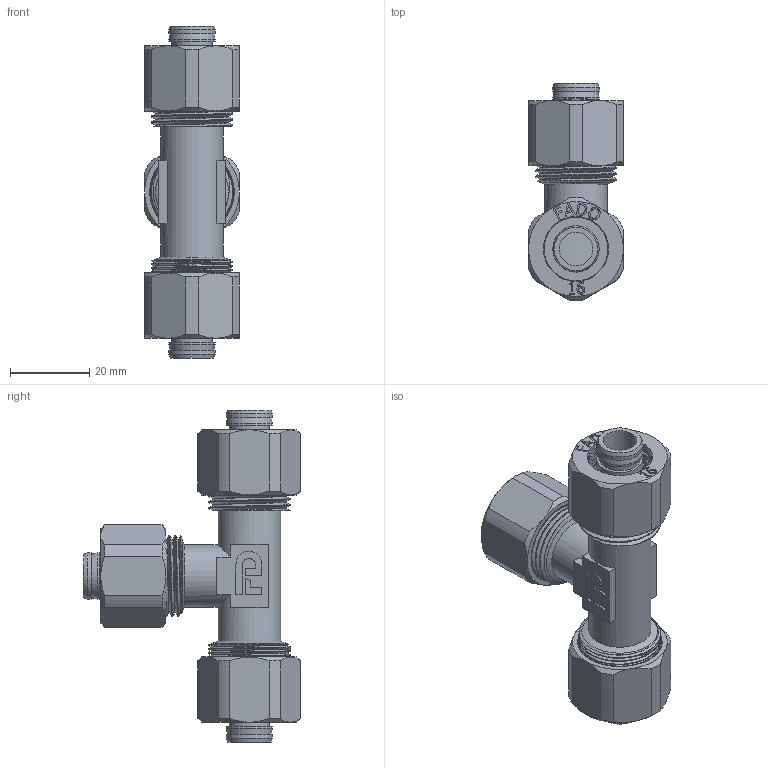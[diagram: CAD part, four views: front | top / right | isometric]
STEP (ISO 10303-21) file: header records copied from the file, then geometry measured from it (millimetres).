
FILE_DESCRIPTION(/* description */ (''),/* implementation_level */ '2;1');
FILE_NAME(/* name */ 'C:\Users\Doom\Desktop\Фадотех\Обжим\RFT01 16 30.03.2020\RFT01 16 30.03.2020.stp',/* time_stamp */ '2022-05-31T16:03:53+03:00',/* author */ ('Doom'),/* organization */ (''),/* preprocessor_version */ 'ST-DEVELOPER v18',/* originating_system */ 'Autodesk Inventor 2020',/* authorisation */ '');
FILE_SCHEMA (('AUTOMOTIVE_DESIGN { 1 0 10303 214 3 1 1 }'));
Length unit declared in the file: millimetre
Products named in the file (5): RFT01 16 30.03.2020; RFM29 32x1.2M 30.03.2020; FADO MC Nut-16 15.02.2020; FADO MC Socket-16 15.02.2020; Olive 16 15.02.2020
Assembly tree (10 placements, depth 2):
  RFT01 16 30.03.2020
    RFM29 32x1.2M 30.03.2020
    FADO MC Nut-16 15.02.2020  x3
    FADO MC Socket-16 15.02.2020  x3
    Olive 16 15.02.2020  x3
Bounding box: 24 x 54.97 x 83.97 mm (x, y, z)
Volume: 24441.7 mm3; surface area: 39050.5 mm2
Topology: 16 solids, 16 shells, 1526 faces, 4175 edges, 2799 vertices
Faces by surface type: bspline 746, plane 465, cylinder 236, cone 76, torus 3
Full cylindrical faces by diameter (mm): 8.5 x3, 10.2 x6, 11.7 x12, 12 x2, 12.6 x3, 14.7 x6, 15.5 x3, 15.8 x2, 16.5 x3, 18.478 x4, 19 x3, 19.219 x2, 19.5 x3, 19.867 x36, 20.702 x25, 21.35 x6
Entity records: 41704 total; most frequent: CARTESIAN_POINT 27910, ORIENTED_EDGE 3306, DIRECTION 2006, EDGE_CURVE 1653, VERTEX_POINT 1109, LINE 680, VECTOR 680, EDGE_LOOP 664
